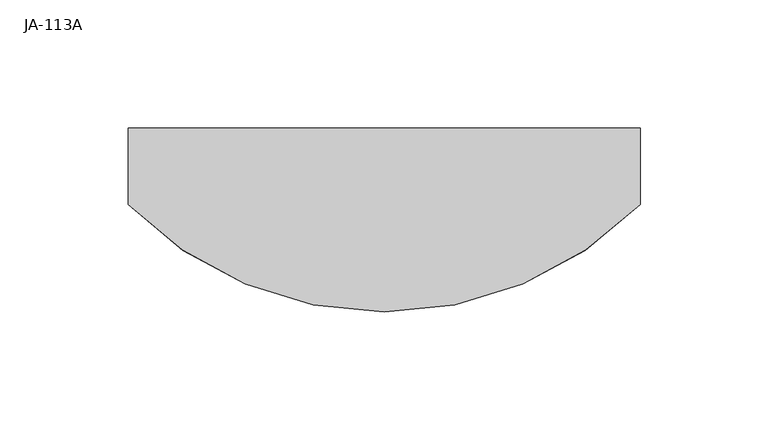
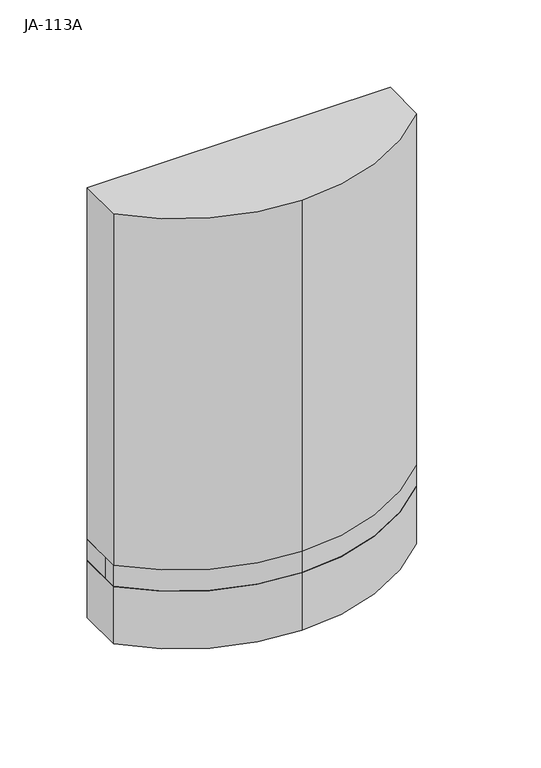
"""IFC4 building model written with IfcOpenShell, lengths in millimetres: proxy geometry, Sirény.CC : JA-113A."""

import ifcopenshell
import ifcopenshell.guid

model = None  # the IFC model being written
_history = None  # IfcOwnerHistory: only IFC2X3 demands one
_inside = {}  # id of a spatial element -> (the spatial element, [elements in it])
_under = {}  # id of a project, library or spatial element -> (it, [spatial elements below it])
_declared = {}  # id of a project -> (the project, [libraries it declares])
_typed = {}  # id of a type object -> (the type object, [elements of that type])
_made_of = {}  # id of a material, layer set ... -> (it, [elements and type objects made of it])


def new_model(schema):
    """Start an empty IFC model of exactly this schema.

    Asked for "IFC4X3", IfcOpenShell would pick the latest addendum, in which some entities
    have other attributes; the version numbers below select the first issue.
    IFC2X3 requires an IfcOwnerHistory on every rooted entity: one is made here for all.
    """
    global model, _history
    if schema == "IFC4X3":
        model = ifcopenshell.file(schema_version=(4, 3, 0, 0))
    else:
        model = ifcopenshell.file(schema=schema)
    _inside.clear()
    _under.clear()
    _declared.clear()
    _typed.clear()
    _made_of.clear()
    _history = None
    if model.schema == "IFC2X3":
        org = make("IfcOrganization", Name="unknown")
        user = make(
            "IfcPersonAndOrganization",
            ThePerson=make("IfcPerson", FamilyName="unknown"),
            TheOrganization=org,
        )
        app = make(
            "IfcApplication",
            ApplicationDeveloper=org,
            Version="unknown",
            ApplicationFullName="unknown",
            ApplicationIdentifier="unknown",
        )
        _history = make(
            "IfcOwnerHistory",
            OwningUser=user,
            OwningApplication=app,
            ChangeAction="ADDED",
            CreationDate=0,
        )
    return model


def make(cls, **values):
    """One entity of the class cls with the attributes given. An attribute that is None is left unset."""
    return model.create_entity(
        cls, **{name: value for name, value in values.items() if value is not None}
    )


def rooted(cls, **values):
    """An entity with a GlobalId (a new one), such as an element, a storey or a relation."""
    return make(cls, GlobalId=ifcopenshell.guid.new(), OwnerHistory=_history, **values)


def si_unit(unit_type, name, prefix=None):
    """IfcSIUnit, for example si_unit("LENGTHUNIT", "METRE", prefix="MILLI")."""
    return make("IfcSIUnit", UnitType=unit_type, Prefix=prefix, Name=name)


def assignment(units):
    """IfcUnitAssignment: the units of a project."""
    return None if units is None else make("IfcUnitAssignment", Units=units)


def point(xyz):
    """IfcCartesianPoint."""
    return None if xyz is None else make("IfcCartesianPoint", Coordinates=xyz)


def direction(xyz):
    """IfcDirection."""
    return None if xyz is None else make("IfcDirection", DirectionRatios=xyz)


def frame(location, z_axis=None, x_axis=None):
    """IfcAxis2Placement3D, a coordinate frame: its origin and axes. An axis left out is left unset."""
    return make(
        "IfcAxis2Placement3D",
        Location=point(location),
        Axis=direction(z_axis),
        RefDirection=direction(x_axis),
    )


def frame_2d(location, x_axis=None):
    """IfcAxis2Placement2D, a coordinate frame in the plane: its origin and x axis."""
    return make(
        "IfcAxis2Placement2D", Location=point(location), RefDirection=direction(x_axis)
    )


def origin():
    """The frame at (0, 0, 0) with its axes left unset."""
    return frame((0.0, 0.0, 0.0))


def place(relative_to, where):
    """IfcLocalPlacement: puts the frame where relative to a parent placement (None: the world)."""
    return make(
        "IfcLocalPlacement", PlacementRelTo=relative_to, RelativePlacement=where
    )


def context(
    kind, dimensions, precision=None, world=None, true_north=None, identifier=None
):
    """IfcGeometricRepresentationContext, for example the 3D "Model" context."""
    return make(
        "IfcGeometricRepresentationContext",
        ContextIdentifier=identifier,
        ContextType=kind,
        CoordinateSpaceDimension=dimensions,
        Precision=precision,
        WorldCoordinateSystem=world,
        TrueNorth=true_north,
    )


def project(units=None, contexts=None):
    """IfcProject with its units and contexts."""
    return rooted(
        "IfcProject",
        Name="project",
        RepresentationContexts=contexts,
        UnitsInContext=assignment(units),
    )


def spatial(cls, under=None, at=None, **own):
    """A site, building, storey or space (cls), placed at a placement, below another one or the project."""
    s = rooted(cls, ObjectPlacement=at, **own)
    if under is not None:
        _under.setdefault(under.id(), (under, []))[1].append(s)
    return s


def polyline(points):
    """IfcPolyline through the points."""
    return make("IfcPolyline", Points=[point(p) for p in points])


def circle_curve(where, radius):
    """IfcCircle in the frame where."""
    return make("IfcCircle", Position=where, Radius=radius)


def trimmed(basis, trim1, trim2, sense, master):
    """IfcTrimmedCurve: the piece of a basis curve between two trims."""
    return make(
        "IfcTrimmedCurve",
        BasisCurve=basis,
        Trim1=trim1,
        Trim2=trim2,
        SenseAgreement=sense,
        MasterRepresentation=master,
    )


def segment(curve, same_sense, transition):
    """IfcCompositeCurveSegment."""
    return make(
        "IfcCompositeCurveSegment",
        Transition=transition,
        SameSense=same_sense,
        ParentCurve=curve,
    )


def composite_curve(segments, self_intersect=None):
    """IfcCompositeCurve: segments joined end to end."""
    return make("IfcCompositeCurve", Segments=segments, SelfIntersect=self_intersect)


def outline(outer, holes=None, kind="AREA"):
    """IfcArbitraryClosedProfileDef: a profile drawn as a closed curve; with holes, ...WithVoids."""
    if holes is None:
        return make("IfcArbitraryClosedProfileDef", ProfileType=kind, OuterCurve=outer)
    return make(
        "IfcArbitraryProfileDefWithVoids",
        ProfileType=kind,
        OuterCurve=outer,
        InnerCurves=holes,
    )


def extrude(swept, where, along, depth):
    """IfcExtrudedAreaSolid: the profile swept, set in the frame where, extruded along a direction by depth."""
    return make(
        "IfcExtrudedAreaSolid",
        SweptArea=swept,
        Position=where,
        ExtrudedDirection=direction(along),
        Depth=depth,
    )


def shape(context_of_items, identifier, shape_type, items):
    """IfcShapeRepresentation: the items that make up one representation, for example the "Body"."""
    return make(
        "IfcShapeRepresentation",
        ContextOfItems=context_of_items,
        RepresentationIdentifier=identifier,
        RepresentationType=shape_type,
        Items=items,
    )


def source(mapping_origin, context_of_items, identifier, shape_type, items):
    """IfcRepresentationMap: a shape defined once, which mapped items show again and again."""
    return make(
        "IfcRepresentationMap",
        MappingOrigin=mapping_origin,
        MappedRepresentation=shape(context_of_items, identifier, shape_type, items),
    )


def transform(
    local_origin,
    x_axis=None,
    y_axis=None,
    z_axis=None,
    scale=None,
    scale2=None,
    scale3=None,
    uniform=True,
):
    """IfcCartesianTransformationOperator3D, or its non-uniform kind. x_axis, y_axis, z_axis: its Axis1, 2, 3."""
    if uniform:
        return make(
            "IfcCartesianTransformationOperator3D",
            Axis1=direction(x_axis),
            Axis2=direction(y_axis),
            LocalOrigin=point(local_origin),
            Scale=scale,
            Axis3=direction(z_axis),
        )
    return make(
        "IfcCartesianTransformationOperator3DnonUniform",
        Axis1=direction(x_axis),
        Axis2=direction(y_axis),
        LocalOrigin=point(local_origin),
        Scale=scale,
        Axis3=direction(z_axis),
        Scale2=scale2,
        Scale3=scale3,
    )


def mapped(mapping_source, mapping_target):
    """IfcMappedItem: shows the shape of a source again, moved by a transform."""
    return make(
        "IfcMappedItem", MappingSource=mapping_source, MappingTarget=mapping_target
    )


def made_of(thing, what):
    """Note that an element or type object is made of a material, layer set ...; save() writes the relation."""
    if what is not None:
        _made_of.setdefault(what.id(), (what, []))[1].append(thing)
    return thing


def element(
    cls,
    number,
    at=None,
    inside=None,
    cuts=None,
    type_object=None,
    material=None,
    context=None,
    identifier="Body",
    shape_type=None,
    held_by="IfcProductDefinitionShape",
    body=None,
    shapes=None,
    **own,
):
    """One element of the class cls, such as IfcWall. Its Tag is "e" and its number.

    at: its placement. inside: the storey or other place that contains it. cuts: it is an
    opening in that element (IfcRelVoidsElement). A single representation is given by context,
    identifier, shape_type and body (its items); several are given by shapes. held_by: the class
    of the entity that holds the representations. save() writes the other relations.
    """
    e = rooted(cls, Tag="e%d" % number, ObjectPlacement=at, **own)
    if body is not None:
        shapes = [shape(context, identifier, shape_type, body)]
    if shapes is not None:
        e.Representation = make(held_by, Representations=shapes)
    if inside is not None:
        _inside.setdefault(inside.id(), (inside, []))[1].append(e)
    if cuts is not None:
        rooted(
            "IfcRelVoidsElement", RelatingBuildingElement=cuts, RelatedOpeningElement=e
        )
    if type_object is not None:
        _typed.setdefault(type_object.id(), (type_object, []))[1].append(e)
    return made_of(e, material)


def aggregate(whole, parts):
    """IfcRelAggregates: a whole, such as a stair, and the parts it consists of."""
    return rooted("IfcRelAggregates", RelatingObject=whole, RelatedObjects=parts)


def save(model, path):
    """Write the relations noted so far, then the file.

    IfcRelAggregates (storeys below a building ...), IfcRelContainedInSpatialStructure (elements
    in a storey), IfcRelDefinesByType, IfcRelAssociatesMaterial and IfcRelDeclares: one each for
    every whole, place, type object, material and project.
    """
    for whole, parts in _under.values():
        aggregate(whole, parts)
    for where, things in _inside.values():
        rooted(
            "IfcRelContainedInSpatialStructure",
            RelatedElements=things,
            RelatingStructure=where,
        )
    for kind, things in _typed.values():
        rooted("IfcRelDefinesByType", RelatedObjects=things, RelatingType=kind)
    for what, things in _made_of.values():
        rooted("IfcRelAssociatesMaterial", RelatedObjects=things, RelatingMaterial=what)
    for by, libraries in _declared.values():
        rooted("IfcRelDeclares", RelatingContext=by, RelatedDefinitions=libraries)
    model.write(path)


def ja_113a_4933cd80(model_context):
    return source(origin(), model_context, "Body", "SweptSolid", [
        extrude(outline(composite_curve([segment(polyline([(-100.0, 0.0), (100.0, 0.0), (100.0, -30.0)]), True, "CONTINUOUS"), segment(trimmed(circle_curve(frame_2d((0.0, 68.047619)), 140.047619), [point((100.0, -30.0))], [point((0.0, -72.0))], False, "CARTESIAN"), True, "CONTINUOUS"), segment(trimmed(circle_curve(frame_2d((0.0, 68.047619)), 140.047619), [point((0.0, -72.0))], [point((-100.0, -30.0))], False, "CARTESIAN"), True, "CONTINUOUS"), segment(polyline([(-100.0, -30.0), (-100.0, 0.0)]), True, "CONTINUOUS")], self_intersect=False)), frame((0.0, 0.0, -95.0), z_axis=(0.0, 0.0, 1.0), x_axis=(1.0, 0.0, 0.0)), (0.0, 0.0, 1.0), 245.0),
        extrude(outline(composite_curve([segment(polyline([(-100.0, 0.0), (100.0, 0.0), (100.0, -30.0)]), True, "CONTINUOUS"), segment(trimmed(circle_curve(frame_2d((0.0, 68.047619)), 140.047619), [point((100.0, -30.0))], [point((0.0, -72.0))], False, "CARTESIAN"), True, "CONTINUOUS"), segment(trimmed(circle_curve(frame_2d((0.0, 68.047619)), 140.047619), [point((0.0, -72.0))], [point((-100.0, -30.0))], False, "CARTESIAN"), True, "CONTINUOUS"), segment(polyline([(-100.0, -30.0), (-100.0, 0.0)]), True, "CONTINUOUS")], self_intersect=False)), frame((0.0, 0.0, -150.0), z_axis=(0.0, 0.0, 1.0), x_axis=(1.0, 0.0, 0.0)), (0.0, 0.0, 1.0), 40.0),
        extrude(outline(polyline([(100.0, 0.0), (100.0, -20.4947164), (-100.0, -20.4947164), (-100.0, 0.0), (100.0, 0.0)])), frame((0.0, 0.0, -110.0), z_axis=(0.0, 0.0, 1.0), x_axis=(1.0, 0.0, 0.0)), (0.0, 0.0, 1.0), 15.0),
        extrude(outline(composite_curve([segment(polyline([(-100.0, -20.4947164), (100.0, -20.4947164), (100.0, -30.0)]), True, "CONTINUOUS"), segment(trimmed(circle_curve(frame_2d((0.0, 68.047619)), 140.047619), [point((100.0, -30.0))], [point((0.0, -72.0))], False, "CARTESIAN"), True, "CONTINUOUS"), segment(trimmed(circle_curve(frame_2d((0.0, 68.047619)), 140.047619), [point((0.0, -72.0))], [point((-100.0, -30.0))], False, "CARTESIAN"), True, "CONTINUOUS"), segment(polyline([(-100.0, -30.0), (-100.0, -20.4947164)]), True, "CONTINUOUS")], self_intersect=False)), frame((0.0, 0.0, -110.0), z_axis=(0.0, 0.0, 1.0), x_axis=(1.0, 0.0, 0.0)), (0.0, 0.0, 1.0), 15.0),
    ])


if __name__ == "__main__":
    model = new_model("IFC4")
    model_context = context("Model", 3, world=origin())
    ifc_project = project(units=[si_unit("LENGTHUNIT", "METRE", prefix="MILLI")], contexts=[model_context])
    site = spatial("IfcSite", under=ifc_project)
    building = spatial("IfcBuilding", under=site)
    placement = place(None, origin())
    ja_113a_shape = ja_113a_4933cd80(model_context)
    element("IfcBuildingElementProxy", 1, Name="Sirény.CC : JA-113A", ObjectType="Sirény.CC : JA-113A", at=placement, inside=building, context=model_context, shape_type="MappedRepresentation", body=[
        mapped(ja_113a_shape, transform((0.0, 0.0, 0.0), x_axis=(1.0, 0.0, 0.0), y_axis=(0.0, 1.0, 0.0), z_axis=(0.0, 0.0, 1.0))),
    ])
    save(model, "model.ifc")
